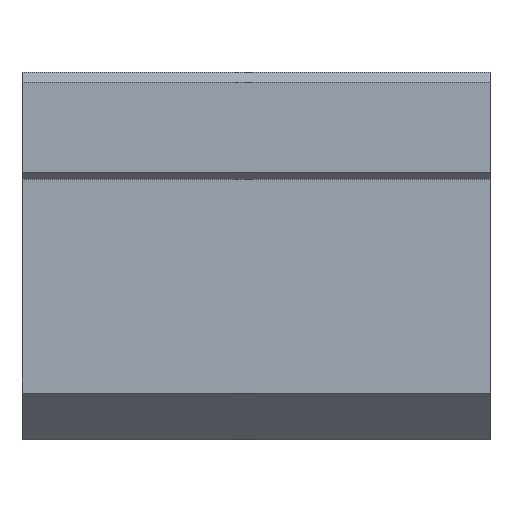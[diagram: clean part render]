
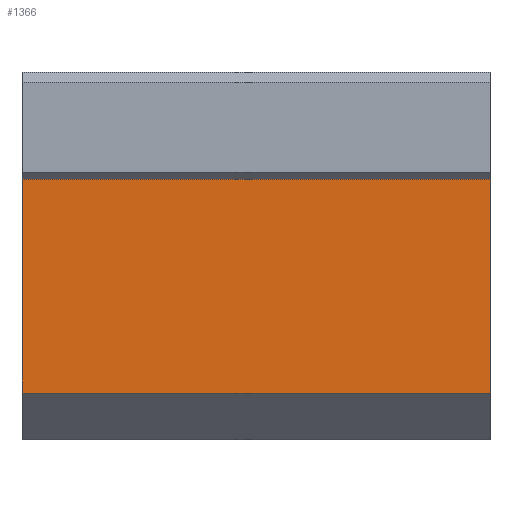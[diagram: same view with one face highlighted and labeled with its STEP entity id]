
A CAD part, front view. The second image highlights one B-rep face of the part: STEP entity #1366.
In plain terms, the highlighted planar face has unit normal (0, -1, 0).
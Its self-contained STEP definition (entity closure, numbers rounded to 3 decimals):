
#1303=CARTESIAN_POINT('',(70.0,-34.,-15.));
#1304=VERTEX_POINT('',#1303);
#1311=CARTESIAN_POINT('',(0.0,-34.,-15.));
#1312=VERTEX_POINT('',#1311);
#1313=CARTESIAN_POINT('',(70.0,-34.,-15.));
#1314=DIRECTION('',(-1.0,0.0,0.0));
#1315=VECTOR('',#1314,70.0);
#1316=LINE('',#1313,#1315);
#1317=EDGE_CURVE('',#1304,#1312,#1316,.T.);
#1336=CARTESIAN_POINT('',(0.0,-34.,-22.0));
#1337=DIRECTION('',(0.0,-1.0,0.0));
#1338=DIRECTION('',(0.0,0.0,-1.0));
#1339=AXIS2_PLACEMENT_3D('',#1336,#1337,#1338);
#1340=PLANE('',#1339);
#1341=ORIENTED_EDGE('',*,*,#1317,.F.);
#1342=CARTESIAN_POINT('',(70.0,-34.0,17.0));
#1343=VERTEX_POINT('',#1342);
#1344=CARTESIAN_POINT('',(70.0,-34.,-15.));
#1345=DIRECTION('',(0.0,0.0,1.0));
#1346=VECTOR('',#1345,32.0);
#1347=LINE('',#1344,#1346);
#1348=EDGE_CURVE('',#1304,#1343,#1347,.T.);
#1349=ORIENTED_EDGE('',*,*,#1348,.T.);
#1350=CARTESIAN_POINT('',(0.0,-34.0,17.0));
#1351=VERTEX_POINT('',#1350);
#1352=CARTESIAN_POINT('',(0.0,-34.0,17.0));
#1353=DIRECTION('',(1.0,0.0,0.0));
#1354=VECTOR('',#1353,70.0);
#1355=LINE('',#1352,#1354);
#1356=EDGE_CURVE('',#1351,#1343,#1355,.T.);
#1357=ORIENTED_EDGE('',*,*,#1356,.F.);
#1358=CARTESIAN_POINT('',(0.0,-34.0,17.0));
#1359=DIRECTION('',(0.0,0.0,-1.0));
#1360=VECTOR('',#1359,32.0);
#1361=LINE('',#1358,#1360);
#1362=EDGE_CURVE('',#1351,#1312,#1361,.T.);
#1363=ORIENTED_EDGE('',*,*,#1362,.T.);
#1364=EDGE_LOOP('',(#1341,#1349,#1357,#1363));
#1365=FACE_OUTER_BOUND('',#1364,.T.);
#1366=ADVANCED_FACE('',(#1365),#1340,.T.);
